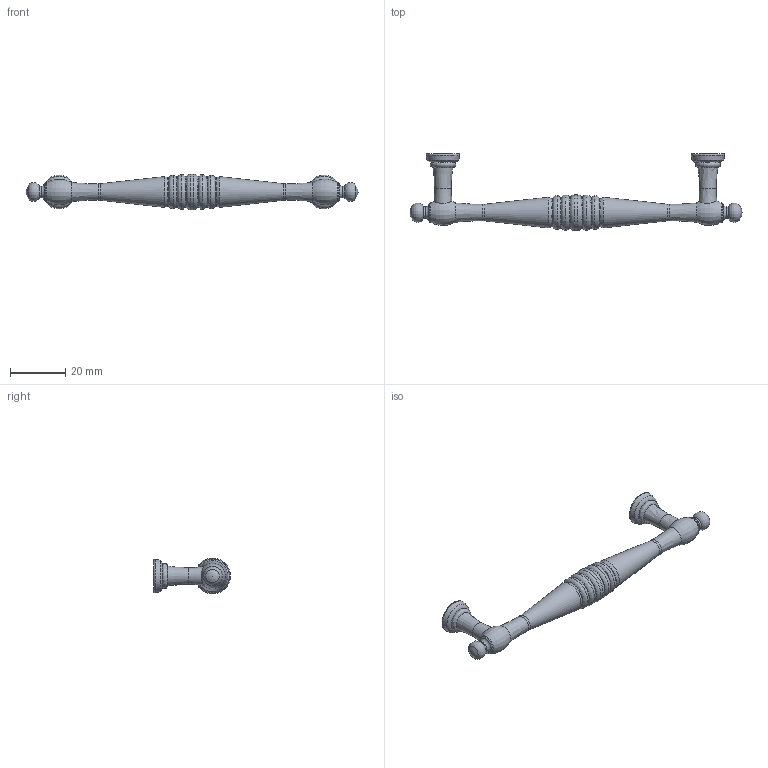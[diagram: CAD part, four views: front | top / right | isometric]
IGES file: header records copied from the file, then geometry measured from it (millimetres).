
Start section: Data from Parasolid IGES Translator 15.0.47, Copyright(c) 2006 Siemens P LM Software. All Rights Reserved.
Global section: file name: 9113444.igs; native system:  By UGS Corp.; preprocessor: XPlus GENERIC/IGES 3.0; author: Noname; organization: Noname; date: 20140122.102433; units: millimetre
Bounding box: 120.3 x 27.8 x 12.9 mm (x, y, z)
Surface area: 4680.3 mm2 (no closed solid volume)
Topology: 0 solids, 0 shells, 63 faces, 256 edges, 195 vertices
Faces by surface type: revolution 59, extrusion 4
